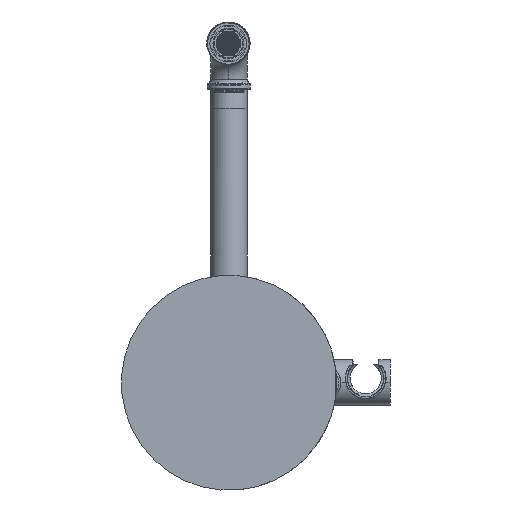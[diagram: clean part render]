
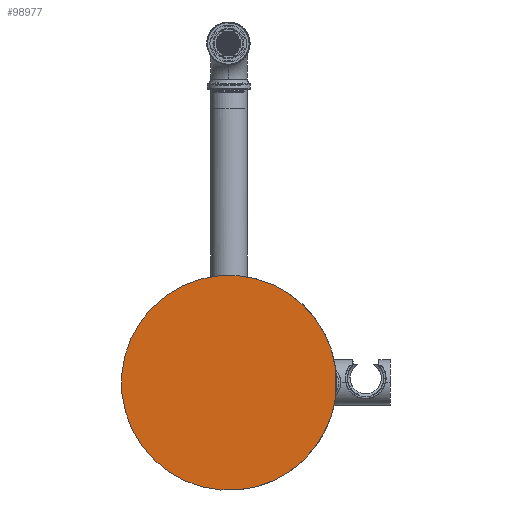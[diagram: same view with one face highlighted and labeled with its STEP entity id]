
A CAD part, front view. The second image highlights one B-rep face of the part: STEP entity #98977.
In plain terms, the highlighted planar face has unit normal (0, -1, 0).
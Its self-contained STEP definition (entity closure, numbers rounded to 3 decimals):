
#4271 = VERTEX_POINT ( 'NONE', #27402 ) ;
#4820 = DIRECTION ( 'NONE',  ( 0., 0., 1. ) ) ;
#5041 = VERTEX_POINT ( 'NONE', #41746 ) ;
#8701 = VERTEX_POINT ( 'NONE', #10806 ) ;
#10806 = CARTESIAN_POINT ( 'NONE',  ( 0., -833.188, 193.445 ) ) ;
#12222 = PLANE ( 'NONE',  #22811 ) ;
#13096 = ORIENTED_EDGE ( 'NONE', *, *, #19021, .F. ) ;
#13256 = DIRECTION ( 'NONE',  ( 0., 1., 0. ) ) ;
#15530 = VECTOR ( 'NONE', #33390, 1000. ) ;
#17237 = ORIENTED_EDGE ( 'NONE', *, *, #42190, .F. ) ;
#19021 = EDGE_CURVE ( 'NONE', #59746, #4271, #58627, .T. ) ;
#19852 = CIRCLE ( 'NONE', #63776, 70. ) ;
#20627 = FACE_OUTER_BOUND ( 'NONE', #71279, .T. ) ;
#22811 = AXIS2_PLACEMENT_3D ( 'NONE', #98934, #26973, #4820 ) ;
#26973 = DIRECTION ( 'NONE',  ( 0., 1., 0. ) ) ;
#27402 = CARTESIAN_POINT ( 'NONE',  ( -63.933, -833.188, 273.853 ) ) ;
#33390 = DIRECTION ( 'NONE',  ( 0., 0., 1. ) ) ;
#37477 = DIRECTION ( 'NONE',  ( 0., 0., 1. ) ) ;
#41719 = CARTESIAN_POINT ( 'NONE',  ( -69.192, -833.188, 204.051 ) ) ;
#41746 = CARTESIAN_POINT ( 'NONE',  ( 0., -833.188, 214.657 ) ) ;
#42190 = EDGE_CURVE ( 'NONE', #8701, #59746, #19852, .T. ) ;
#47892 = CIRCLE ( 'NONE', #64682, 70. ) ;
#52423 = ORIENTED_EDGE ( 'NONE', *, *, #63824, .F. ) ;
#54903 = EDGE_CURVE ( 'NONE', #8701, #5041, #62885, .T. ) ;
#55298 = ORIENTED_EDGE ( 'NONE', *, *, #54903, .T. ) ;
#58627 = CIRCLE ( 'NONE', #98815, 70. ) ;
#59746 = VERTEX_POINT ( 'NONE', #84714 ) ;
#62885 = LINE ( 'NONE', #103290, #15530 ) ;
#63776 = AXIS2_PLACEMENT_3D ( 'NONE', #41719, #73756, #66389 ) ;
#63824 = EDGE_CURVE ( 'NONE', #4271, #5041, #47892, .T. ) ;
#64682 = AXIS2_PLACEMENT_3D ( 'NONE', #75999, #99594, #68102 ) ;
#66389 = DIRECTION ( 'NONE',  ( 0., 0., 1. ) ) ;
#68102 = DIRECTION ( 'NONE',  ( 0., 0., 1. ) ) ;
#71279 = EDGE_LOOP ( 'NONE', ( #55298, #52423, #13096, #17237 ) ) ;
#73756 = DIRECTION ( 'NONE',  ( 0., 1., 0. ) ) ;
#75999 = CARTESIAN_POINT ( 'NONE',  ( -69.192, -833.188, 204.051 ) ) ;
#84714 = CARTESIAN_POINT ( 'NONE',  ( -74.451, -833.188, 134.249 ) ) ;
#98815 = AXIS2_PLACEMENT_3D ( 'NONE', #101011, #13256, #37477 ) ;
#98934 = CARTESIAN_POINT ( 'NONE',  ( -139.192, -833.188, 282.582 ) ) ;
#98977 = ADVANCED_FACE ( 'NONE', ( #20627 ), #12222, .F. ) ;
#99594 = DIRECTION ( 'NONE',  ( 0., 1., 0. ) ) ;
#101011 = CARTESIAN_POINT ( 'NONE',  ( -69.192, -833.188, 204.051 ) ) ;
#103290 = CARTESIAN_POINT ( 'NONE',  ( 0., -833.188, 282.582 ) ) ;
